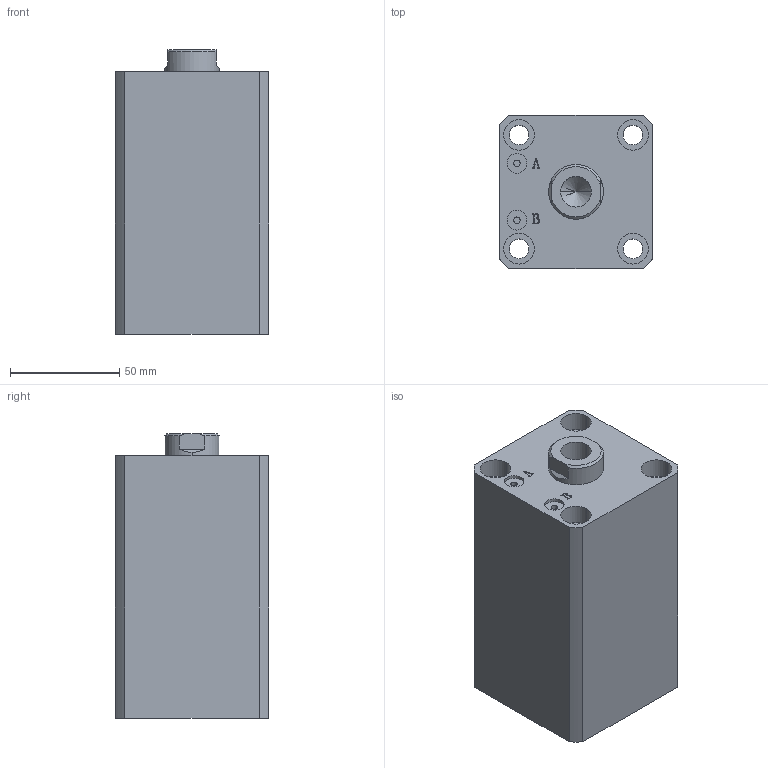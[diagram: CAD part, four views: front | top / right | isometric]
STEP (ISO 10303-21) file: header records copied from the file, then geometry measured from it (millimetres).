
FILE_DESCRIPTION (( 'STEP AP203' ), '1' );
FILE_NAME ('HTB-SDMA40-65N.STEP', '2019-10-07T11:55:19', ( '微软用户' ), ( '微软中国' ), 'SwSTEP 2.0', 'SolidWorks 2012', '' );
FILE_SCHEMA (( 'CONFIG_CONTROL_DESIGN' ));
Length unit declared in the file: millimetre
Products named in the file (3): HTB-SDMA40-65N; HTB-SDMA40-65N活塞杆; HTB-SDMA40-65掛极
Assembly tree (2 placements, depth 2):
  HTB-SDMA40-65N
    HTB-SDMA40-65掛极
    HTB-SDMA40-65N活塞杆
Bounding box: 70 x 70 x 130 mm (x, y, z)
Volume: 497259.2 mm3; surface area: 84526.7 mm2
Topology: 2 solids, 2 shells, 137 faces, 331 edges, 217 vertices
Faces by surface type: plane 65, cylinder 46, bspline 16, torus 6, cone 4
Entity records: 5074 total; most frequent: CARTESIAN_POINT 1580, ORIENTED_EDGE 658, DIRECTION 647, EDGE_CURVE 329, AXIS2_PLACEMENT_3D 232, VERTEX_POINT 217, LINE 183, VECTOR 183
